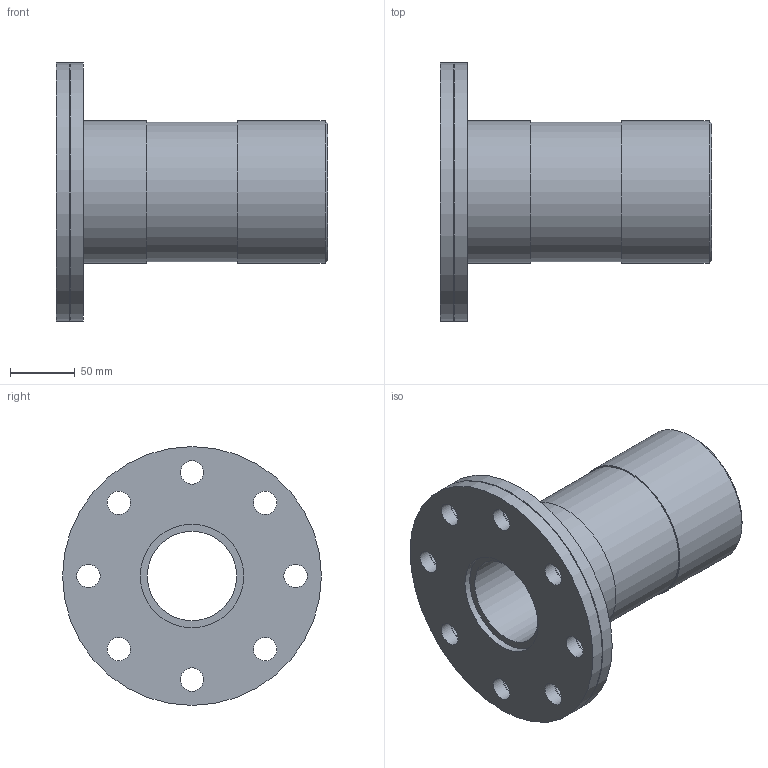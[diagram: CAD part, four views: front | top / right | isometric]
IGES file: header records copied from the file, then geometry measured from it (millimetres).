
Global section: file name: 872306110030_182306110030.ipt; native system: Autodesk Inventor 2015; preprocessor: unknown; author: Кирилл,,11,0; organization: 20170224.180708; date: 20170608.042710; units: millimetre
Bounding box: 210 x 200 x 200 mm (x, y, z)
Volume: 1549932.3 mm3; surface area: 193067.6 mm2
Topology: 1 solids, 1 shells, 50 faces, 147 edges, 104 vertices
Faces by surface type: revolution 35, plane 7, cylinder 5, cone 3
Full cylindrical faces by diameter (mm): 107.8 x1, 110 x2, 200 x2
